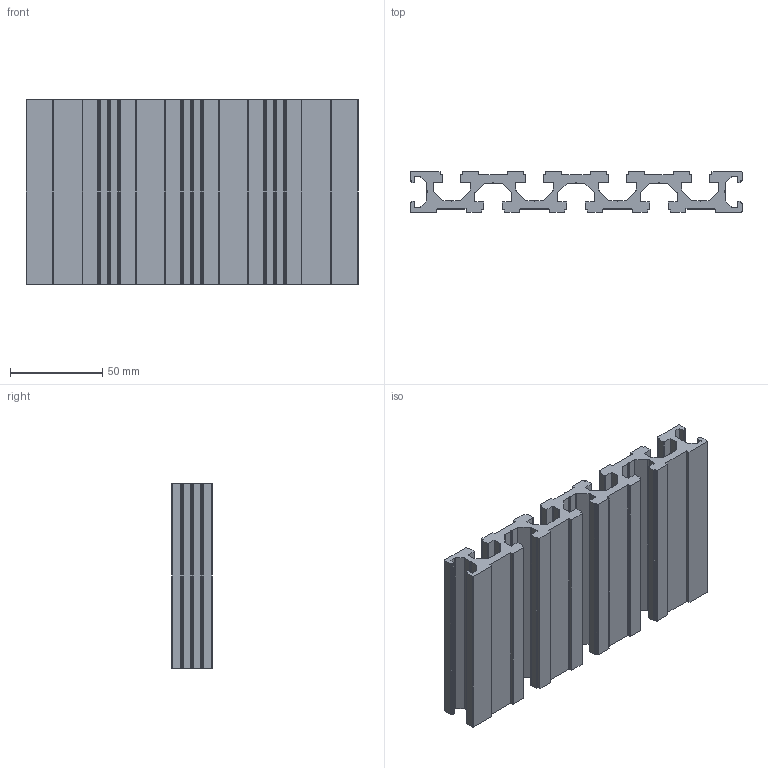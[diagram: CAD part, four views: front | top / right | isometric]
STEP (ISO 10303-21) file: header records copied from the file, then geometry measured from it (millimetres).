
FILE_DESCRIPTION (( 'STEP AP203' ), '1' );
FILE_NAME ('22,5x80 Sigma Profile.STEP', '2022-01-31T16:45:28', ( '' ), ( '' ), 'SwSTEP 2.0', 'SolidWorks 2018', '' );
FILE_SCHEMA (( 'CONFIG_CONTROL_DESIGN' ));
Length unit declared in the file: millimetre
Products named in the file (1): 22,5x80 Sigma Profile
Bounding box: 180 x 22 x 100 mm (x, y, z)
Volume: 186656.3 mm3; surface area: 82728.7 mm2
Topology: 1 solids, 1 shells, 363 faces, 1083 edges, 722 vertices
Faces by surface type: bspline 363
Entity records: 12404 total; most frequent: CARTESIAN_POINT 6193, ORIENTED_EDGE 2166, EDGE_CURVE 1083, B_SPLINE_CURVE_WITH_KNOTS 892, VERTEX_POINT 722, EDGE_LOOP 363, ADVANCED_FACE 363, FACE_OUTER_BOUND 363
